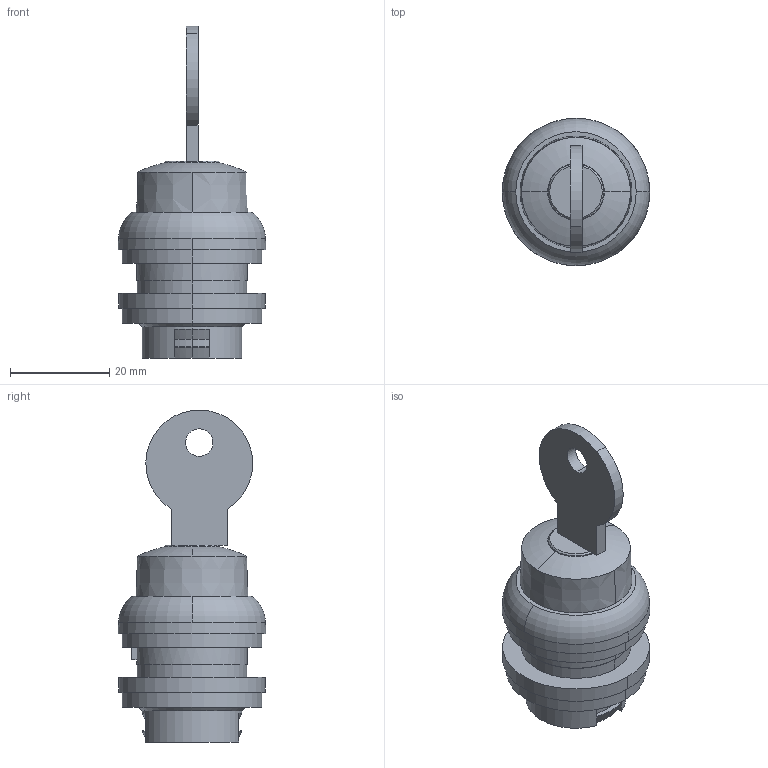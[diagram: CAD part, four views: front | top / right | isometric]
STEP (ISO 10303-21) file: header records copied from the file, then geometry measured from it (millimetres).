
FILE_DESCRIPTION( ( '' ), '1' );
FILE_NAME( '//expscmdclustefs.cadenas.external/client_exchange/iodir/jobs/output/wkb45410429_no0/STEP/111790_2_03.stp', '2012-05-29T20:16:20', ( '' ), ( '' ), ' ', ' ', ' ' );
FILE_SCHEMA( ( 'CONFIG_CONTROL_DESIGN' ) );
Length unit declared in the file: millimetre
Products named in the file (1): 1
Bounding box: 29.7 x 29.7 x 66.75 mm (x, y, z)
Volume: 19433.5 mm3; surface area: 5733.1 mm2
Topology: 1 solids, 1 shells, 75 faces, 184 edges, 120 vertices
Faces by surface type: plane 33, cylinder 22, cone 16, torus 4
Entity records: 2289 total; most frequent: DIRECTION 423, CARTESIAN_POINT 396, ORIENTED_EDGE 368, EDGE_CURVE 184, AXIS2_PLACEMENT_3D 171, VERTEX_POINT 120, CIRCLE 93, EDGE_LOOP 86
